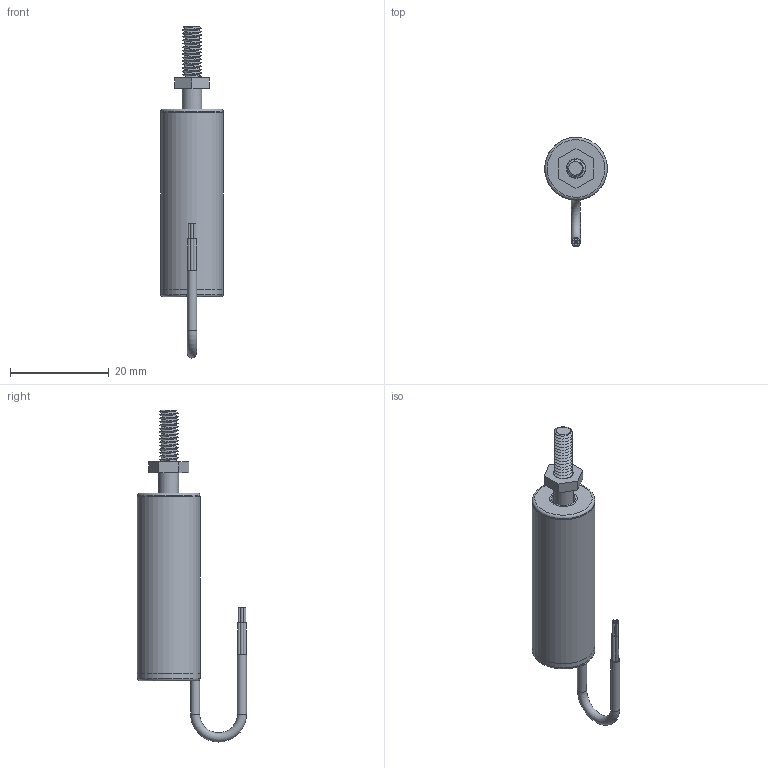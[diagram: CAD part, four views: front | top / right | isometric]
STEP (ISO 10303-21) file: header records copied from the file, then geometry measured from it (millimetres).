
FILE_DESCRIPTION(/* description */ (''),/* implementation_level */ '2;1');
FILE_NAME(/* name */ 'ILPS-13Z-025-A-00-YY-S Assembly (wrapped).iam.stp',/* time_stamp */ '2023-05-05T16:04:00-04:00',/* author */ ('TSC_Grant'),/* organization */ (''),/* preprocessor_version */ 'ST-DEVELOPER v19.2',/* originating_system */ 'Autodesk Inventor 2024',/* authorisation */ '');
FILE_SCHEMA (('AUTOMOTIVE_DESIGN { 1 0 10303 214 3 1 1 }'));
Length unit declared in the file: inch
Products named in the file (5): 3020-0017-XX Assembly_SW; 3020-0017-XX Sensor Tube_SW; 3020-0017-XX Shaft_SW; 3020-0017-XX Wire_SW; BS 4183 - M4
Assembly tree (4 placements, depth 2):
  3020-0017-XX Assembly_SW
    3020-0017-XX Sensor Tube_SW
    3020-0017-XX Shaft_SW
    3020-0017-XX Wire_SW
    BS 4183 - M4
Bounding box: 12.7 x 22.14 x 67.38 mm (x, y, z)
Volume: 1400.2 mm3; surface area: 5790 mm2
Topology: 7 solids, 7 shells, 64 faces, 122 edges, 80 vertices
Faces by surface type: plane 32, cylinder 22, cone 4, torus 3, bspline 3
Full cylindrical faces by diameter (mm): 0.508 x4, 0.635 x4, 1.857 x2, 3.242 x1, 3.988 x1, 4.826 x1, 5.588 x3, 12.446 x1, 12.7 x3
Entity records: 3534 total; most frequent: CARTESIAN_POINT 1890, DIRECTION 304, ORIENTED_EDGE 244, AXIS2_PLACEMENT_3D 127, EDGE_CURVE 122, EDGE_LOOP 82, VERTEX_POINT 80, FACE_OUTER_BOUND 64
